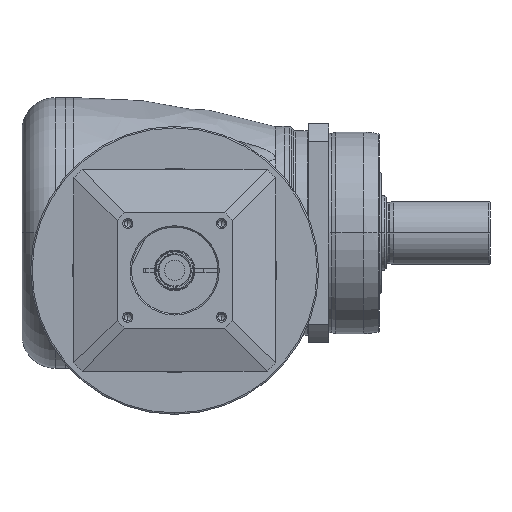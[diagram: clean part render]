
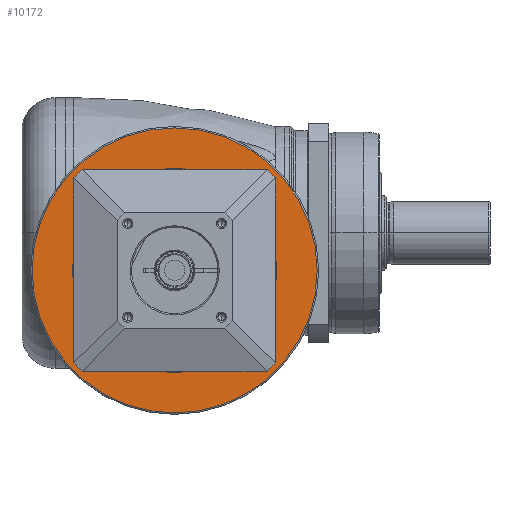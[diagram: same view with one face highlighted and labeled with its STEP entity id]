
A CAD part, front view. The second image highlights one B-rep face of the part: STEP entity #10172.
In plain terms, the highlighted planar face has unit normal (0, -1, 0) as drawn and (1, 0, 0) by its records, which use the part's own axes.
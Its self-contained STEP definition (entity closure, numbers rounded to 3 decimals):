
#9155=CARTESIAN_POINT('',(-9.,0.,0.));
#9156=DIRECTION('',(-1.,0.,0.));
#9157=DIRECTION('',(0.,-1.,0.));
#9158=AXIS2_PLACEMENT_3D('',#9155,#9156,#9157);
#9160=CARTESIAN_POINT('',(-9.,0.,0.));
#9161=DIRECTION('',(-1.,0.,0.));
#9162=DIRECTION('',(0.,1.,0.));
#9163=AXIS2_PLACEMENT_3D('',#9160,#9161,#9162);
#9165=CARTESIAN_POINT('',(-9.,0.,0.));
#9166=DIRECTION('',(-1.,0.,0.));
#9167=DIRECTION('',(0.,-1.,0.));
#9168=AXIS2_PLACEMENT_3D('',#9165,#9166,#9167);
#9170=CARTESIAN_POINT('',(-9.,0.,0.));
#9171=DIRECTION('',(-1.,0.,0.));
#9172=DIRECTION('',(0.,1.,0.));
#9173=AXIS2_PLACEMENT_3D('',#9170,#9171,#9172);
#9417=CARTESIAN_POINT('',(-9.,-49.5,0.));
#9418=CARTESIAN_POINT('',(-9.,49.5,0.));
#9419=VERTEX_POINT('',#9417);
#9420=VERTEX_POINT('',#9418);
#9475=CARTESIAN_POINT('',(-9.,-35.5,0.));
#9476=CARTESIAN_POINT('',(-9.,35.5,0.));
#9477=VERTEX_POINT('',#9475);
#9478=VERTEX_POINT('',#9476);
#10157=CARTESIAN_POINT('',(-9.,0.,0.));
#10158=DIRECTION('',(1.,0.,0.));
#10159=DIRECTION('',(0.,-1.,0.));
#10160=AXIS2_PLACEMENT_3D('',#10157,#10158,#10159);
#10161=PLANE('',#10160);
#10162=ORIENTED_EDGE('',*,*,#10089,.T.);
#10163=ORIENTED_EDGE('',*,*,#10074,.T.);
#10164=EDGE_LOOP('',(#10162,#10163));
#10165=FACE_OUTER_BOUND('',#10164,.F.);
#10167=ORIENTED_EDGE('',*,*,#10166,.F.);
#10169=ORIENTED_EDGE('',*,*,#10168,.F.);
#10170=EDGE_LOOP('',(#10167,#10169));
#10171=FACE_BOUND('',#10170,.F.);
#10172=ADVANCED_FACE('',(#10165,#10171),#10161,.T.);
#9159=CIRCLE('',#9158,35.5);
#9164=CIRCLE('',#9163,35.5);
#9169=CIRCLE('',#9168,49.5);
#9174=CIRCLE('',#9173,49.5);
#10074=EDGE_CURVE('',#9420,#9419,#9174,.T.);
#10089=EDGE_CURVE('',#9419,#9420,#9169,.T.);
#10166=EDGE_CURVE('',#9477,#9478,#9159,.T.);
#10168=EDGE_CURVE('',#9478,#9477,#9164,.T.);
